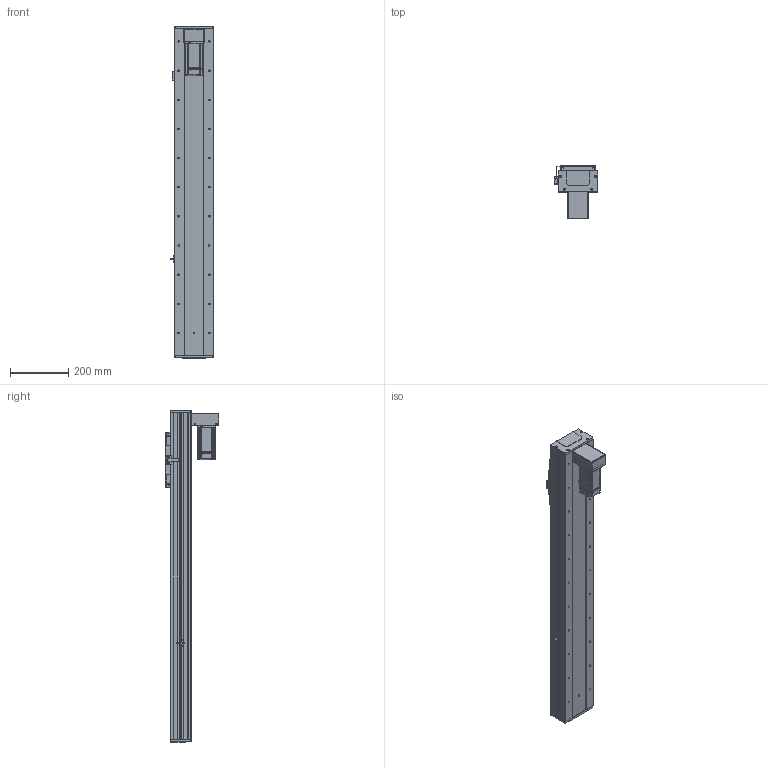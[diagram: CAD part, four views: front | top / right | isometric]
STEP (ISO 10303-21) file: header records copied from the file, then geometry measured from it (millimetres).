
FILE_DESCRIPTION (( 'STEP AP203' ), '1' );
FILE_NAME ('RY140F-L2020-300-BK.SLDASM_850.step', '2021-03-02T08:27:05', ( '盈信电脑' ), ( '东莞市道滘镇水果街19号' ), 'SwSTEP 2.0', 'SolidWorks 2012', '' );
FILE_SCHEMA (( 'CONFIG_CONTROL_DESIGN' ));
Products named in the file (21): RY140F-詩湍幗謫粣; RY140F-滅鳥奻裔; RY140F-直连型材铝滑块连接座; RY140F-300-BK蛌殏詩湍_850; RY140F-300-BK倰第菁釱_850; RY140F-300-BK倰第奻裔啣_850; 藻笠沭; RY140F-L2020-300-BK.SLDASM_850; RY140F-直连型材铝滑块(16丝杆); 滅袉蝶18-10; RY140F-詩湍嘐隅輸; RY140F-狟殏萇儂欶(400W); RY140F-672覜茼んえ; RY140F-狟殏萇儂啣(400W M5); RY140F-詩湍揤え; 侐源滅袉蝶; 覜茼ん672; 15; 侂狟400W侜督萇儂; RY140F-后盖板(铝件）; RY100F-詩湍揤踡謫
Assembly tree (26 placements, depth 3):
  RY140F-L2020-300-BK.SLDASM_850
    RY140F-300-BK倰第菁釱_850
    RY140F-300-BK倰第奻裔啣_850  x2
    RY140F-300-BK蛌殏詩湍_850
    RY140F-直连型材铝滑块连接座
    RY140F-滅鳥奻裔
    RY140F-詩湍幗謫粣
    藻笠沭  x2
    RY100F-詩湍揤踡謫
    RY140F-后盖板(铝件）  x2
    侂狟400W侜督萇儂
      15
    覜茼ん672
    RY140F-672覜茼んえ
    RY140F-詩湍揤え  x2
    侐源滅袉蝶  x2
    RY140F-狟殏萇儂啣(400W M5)
    RY140F-狟殏萇儂欶(400W)
    RY140F-詩湍嘐隅輸
    滅袉蝶18-10  x2
    RY140F-直连型材铝滑块(16丝杆)
Bounding box: 148.7 x 184.5 x 1139 mm (x, y, z)
Volume: 4366668 mm3; surface area: 1554385.3 mm2
Topology: 25 solids, 25 shells, 2048 faces, 5600 edges, 3564 vertices
Faces by surface type: cylinder 995, plane 811, cone 216, bspline 22, torus 4
Entity records: 64384 total; most frequent: CARTESIAN_POINT 13499, DIRECTION 10291, ORIENTED_EDGE 9996, EDGE_CURVE 4998, AXIS2_PLACEMENT_3D 3684, VERTEX_POINT 3268, LINE 2923, VECTOR 2923
